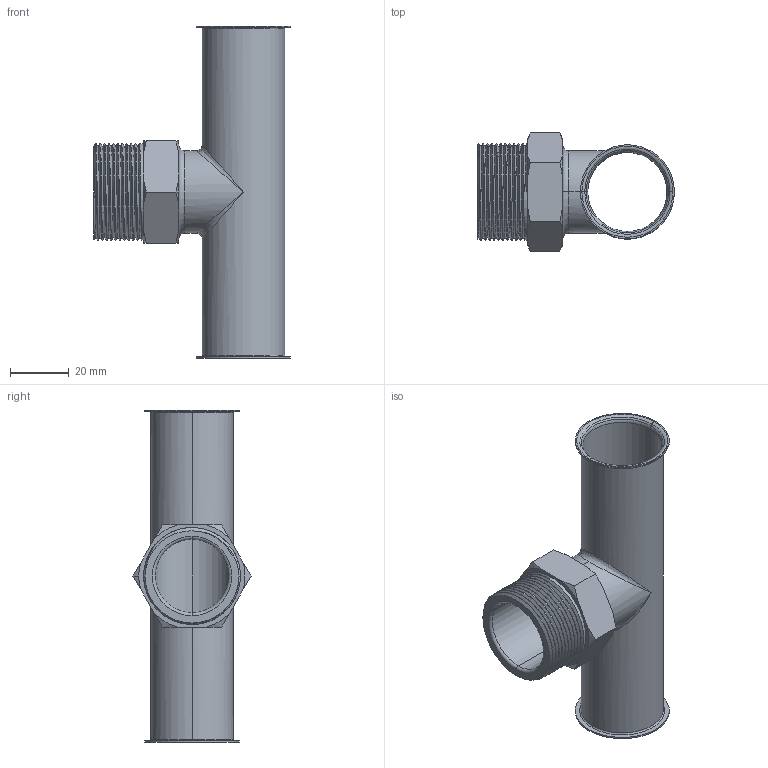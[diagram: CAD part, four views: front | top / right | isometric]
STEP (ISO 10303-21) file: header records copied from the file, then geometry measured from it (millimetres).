
FILE_DESCRIPTION (( 'STEP AP214' ), '1' );
FILE_NAME ('male_Tee_28_1.STEP', '2016-07-07T00:58:37', ( 'sjh' ), ( '' ), 'SwSTEP 2.0', 'SolidWorks 2014', '' );
FILE_SCHEMA (( 'AUTOMOTIVE_DESIGN' ));
Length unit declared in the file: millimetre
Products named in the file (2): male_Tee_28_1
Bounding box: 66.99 x 40.18 x 113 mm (x, y, z)
Volume: 17176.9 mm3; surface area: 28680.1 mm2
Topology: 1 solids, 1 shells, 88 faces, 237 edges, 148 vertices
Faces by surface type: cylinder 38, cone 16, plane 15, torus 12, bspline 7
Entity records: 5109 total; most frequent: CARTESIAN_POINT 3113, ORIENTED_EDGE 456, DIRECTION 370, EDGE_CURVE 228, AXIS2_PLACEMENT_3D 153, VERTEX_POINT 146, EDGE_LOOP 96, ADVANCED_FACE 88
